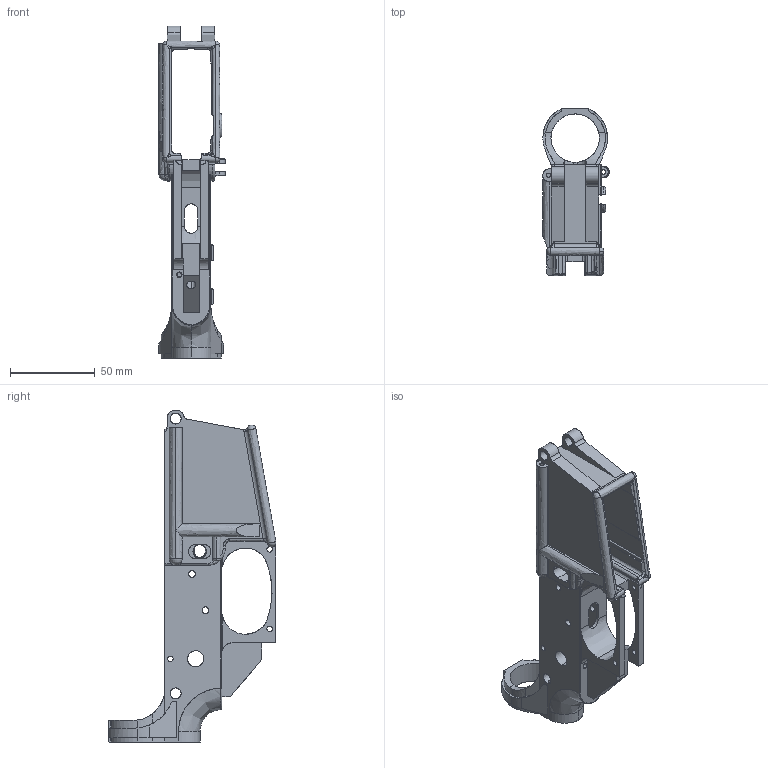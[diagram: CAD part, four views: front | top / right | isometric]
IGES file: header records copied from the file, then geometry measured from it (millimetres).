
Start section: SolidWorks IGES file using analytic representation for surfaces
Global section: file name: C:\Users\Mjolnir\Documents\Solidworks\Armament\AR15\Parts\lower\Assem1.IGS; native system: SolidWorks 2012; preprocessor: SolidWorks 2012; author: Mjolnir; date: 121226.035753; units: millimetre
Bounding box: 39.05 x 98.98 x 195.65 mm (x, y, z)
Surface area: 53768.2 mm2 (no closed solid volume)
Topology: 0 solids, 0 shells, 451 faces, 6477 edges, 6459 vertices
Faces by surface type: bspline 240, revolution 211
